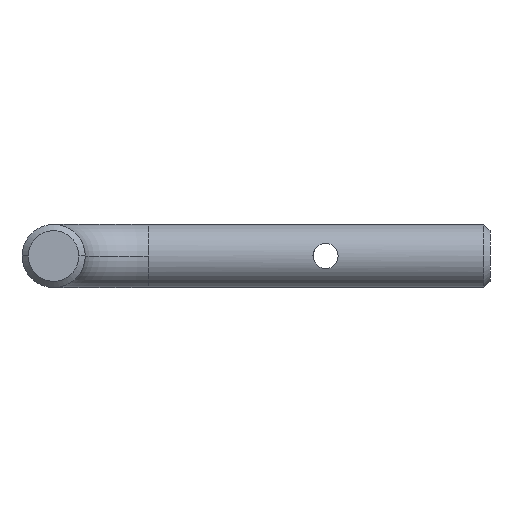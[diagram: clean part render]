
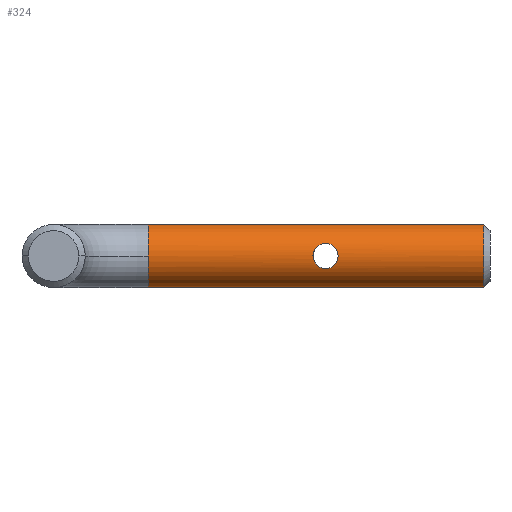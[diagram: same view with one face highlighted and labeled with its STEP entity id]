
A CAD part, left-side view. The second image highlights one B-rep face of the part: STEP entity #324.
In plain terms, the highlighted cylindrical face has radius 2.5 mm (diameter 5 mm), a partial arc.
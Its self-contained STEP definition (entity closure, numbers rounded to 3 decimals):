
#16 = FACE_BOUND ( 'NONE', #434, .T. ) ;
#24 = FACE_OUTER_BOUND ( 'NONE', #488, .T. ) ;
#25 = LINE ( 'NONE', #340, #61 ) ;
#26 = CIRCLE ( 'NONE', #113, 2.5 ) ;
#29 = CIRCLE ( 'NONE', #139, 2.5 ) ;
#30 = CIRCLE ( 'NONE', #110, 2.5 ) ;
#36 = VECTOR ( 'NONE', #343, 1000. ) ;
#40 = LINE ( 'NONE', #362, #36 ) ;
#52 = VERTEX_POINT ( 'NONE', #338 ) ;
#59 = CYLINDRICAL_SURFACE ( 'NONE', #117, 2.5 ) ;
#61 = VECTOR ( 'NONE', #387, 1000. ) ;
#74 = VERTEX_POINT ( 'NONE', #384 ) ;
#78 = EDGE_CURVE ( 'NONE', #52, #418, #25, .T. ) ;
#79 = EDGE_CURVE ( 'NONE', #52, #74, #30, .T. ) ;
#81 = EDGE_CURVE ( 'NONE', #74, #411, #40, .T. ) ;
#86 = EDGE_CURVE ( 'NONE', #404, #484, #310, .T. ) ;
#110 = AXIS2_PLACEMENT_3D ( 'NONE', #390, #359, #345 ) ;
#113 = AXIS2_PLACEMENT_3D ( 'NONE', #177, #189, #183 ) ;
#117 = AXIS2_PLACEMENT_3D ( 'NONE', #168, #160, #169 ) ;
#123 = EDGE_CURVE ( 'NONE', #399, #418, #26, .T. ) ;
#125 = EDGE_CURVE ( 'NONE', #484, #404, #308, .T. ) ;
#136 = EDGE_CURVE ( 'NONE', #411, #399, #29, .T. ) ;
#139 = AXIS2_PLACEMENT_3D ( 'NONE', #244, #231, #251 ) ;
#149 = CARTESIAN_POINT ( 'NONE',  ( -2.5, 0., 0. ) ) ;
#160 = DIRECTION ( 'NONE',  ( 0., 1., 0. ) ) ;
#168 = CARTESIAN_POINT ( 'NONE',  ( 0., -27., 0. ) ) ;
#169 = DIRECTION ( 'NONE',  ( 0., 0., 1. ) ) ;
#173 = CARTESIAN_POINT ( 'NONE',  ( 0., 0., 2.5 ) ) ;
#175 = CARTESIAN_POINT ( 'NONE',  ( -2.291, -13.868, 1. ) ) ;
#177 = CARTESIAN_POINT ( 'NONE',  ( 0., 0., 0. ) ) ;
#179 = CARTESIAN_POINT ( 'NONE',  ( -2.5, -13., -0.133 ) ) ;
#180 = CARTESIAN_POINT ( 'NONE',  ( -2.489, -13.026, 0.263 ) ) ;
#183 = DIRECTION ( 'NONE',  ( 0., 0., -1. ) ) ;
#185 = CARTESIAN_POINT ( 'NONE',  ( -2.371, -13.385, 0.799 ) ) ;
#187 = CARTESIAN_POINT ( 'NONE',  ( -2.425, -13.202, 0.616 ) ) ;
#188 = CARTESIAN_POINT ( 'NONE',  ( -2.371, -13.384, -0.798 ) ) ;
#189 = DIRECTION ( 'NONE',  ( 0., -1., 0. ) ) ;
#191 = CARTESIAN_POINT ( 'NONE',  ( -2.343, -13.494, -0.872 ) ) ;
#193 = CARTESIAN_POINT ( 'NONE',  ( -2.489, -13.027, -0.265 ) ) ;
#194 = CARTESIAN_POINT ( 'NONE',  ( -2.303, -13.736, 0.973 ) ) ;
#202 = CARTESIAN_POINT ( 'NONE',  ( -2.425, -13.202, -0.616 ) ) ;
#203 = CARTESIAN_POINT ( 'NONE',  ( -2.291, -14., 1. ) ) ;
#204 = CARTESIAN_POINT ( 'NONE',  ( -2.5, -13., 0.132 ) ) ;
#206 = CARTESIAN_POINT ( 'NONE',  ( -2.451, -13.127, -0.505 ) ) ;
#208 = CARTESIAN_POINT ( 'NONE',  ( -2.343, -13.495, 0.873 ) ) ;
#212 = CARTESIAN_POINT ( 'NONE',  ( -2.291, -13.866, -1. ) ) ;
#213 = CARTESIAN_POINT ( 'NONE',  ( -2.291, -14., -1. ) ) ;
#218 = CARTESIAN_POINT ( 'NONE',  ( -2.303, -13.735, -0.973 ) ) ;
#223 = CARTESIAN_POINT ( 'NONE',  ( -2.451, -13.128, 0.507 ) ) ;
#231 = DIRECTION ( 'NONE',  ( 0., -1., 0. ) ) ;
#244 = CARTESIAN_POINT ( 'NONE',  ( 0., 0., 0. ) ) ;
#251 = DIRECTION ( 'NONE',  ( 0., 0., -1. ) ) ;
#279 = CARTESIAN_POINT ( 'NONE',  ( -2.291, -14., 1. ) ) ;
#280 = CARTESIAN_POINT ( 'NONE',  ( 0., 0., -2.5 ) ) ;
#287 = CARTESIAN_POINT ( 'NONE',  ( -2.291, -14., -1. ) ) ;
#308 = B_SPLINE_CURVE_WITH_KNOTS ( 'NONE', 3,
 ( #213, #212, #218, #191, #188, #202, #206, #193, #179, #204, #180, #223, #187, #185, #208, #194, #175, #203 ),
 .UNSPECIFIED., .F., .F.,
 ( 4, 2, 2, 2, 2, 2, 2, 2, 4 ),
 ( 0., 0., 0.001, 0.001, 0.002, 0.002, 0.002, 0.003, 0.003 ),
 .UNSPECIFIED. ) ;
#310 = B_SPLINE_CURVE_WITH_KNOTS ( 'NONE', 3,
 ( #388, #372, #386, #351, #335, #370, #373, #341, #348, #358, #354, #342, #329, #346, #339, #371, #363, #366 ),
 .UNSPECIFIED., .F., .F.,
 ( 4, 2, 2, 2, 2, 2, 2, 2, 4 ),
 ( 0.003, 0.004, 0.004, 0.004, 0.005, 0.005, 0.006, 0.006, 0.006 ),
 .UNSPECIFIED. ) ;
#324 = ADVANCED_FACE ( 'NONE', ( #24, #16 ), #59, .T. ) ;
#329 = CARTESIAN_POINT ( 'NONE',  ( -2.425, -14.799, -0.615 ) ) ;
#335 = CARTESIAN_POINT ( 'NONE',  ( -2.371, -14.615, 0.799 ) ) ;
#338 = CARTESIAN_POINT ( 'NONE',  ( 0., -26.5, -2.5 ) ) ;
#339 = CARTESIAN_POINT ( 'NONE',  ( -2.344, -14.507, -0.872 ) ) ;
#340 = CARTESIAN_POINT ( 'NONE',  ( 0., -27., -2.5 ) ) ;
#341 = CARTESIAN_POINT ( 'NONE',  ( -2.489, -14.973, 0.264 ) ) ;
#342 = CARTESIAN_POINT ( 'NONE',  ( -2.451, -14.873, -0.505 ) ) ;
#343 = DIRECTION ( 'NONE',  ( 0., 1., 0. ) ) ;
#345 = DIRECTION ( 'NONE',  ( 0., 0., -1. ) ) ;
#346 = CARTESIAN_POINT ( 'NONE',  ( -2.371, -14.616, -0.799 ) ) ;
#348 = CARTESIAN_POINT ( 'NONE',  ( -2.5, -15., 0.132 ) ) ;
#351 = CARTESIAN_POINT ( 'NONE',  ( -2.343, -14.506, 0.873 ) ) ;
#354 = CARTESIAN_POINT ( 'NONE',  ( -2.489, -14.973, -0.264 ) ) ;
#358 = CARTESIAN_POINT ( 'NONE',  ( -2.5, -15., -0.131 ) ) ;
#359 = DIRECTION ( 'NONE',  ( 0., 1., 0. ) ) ;
#362 = CARTESIAN_POINT ( 'NONE',  ( 0., -27., 2.5 ) ) ;
#363 = CARTESIAN_POINT ( 'NONE',  ( -2.291, -14.134, -1. ) ) ;
#366 = CARTESIAN_POINT ( 'NONE',  ( -2.291, -14., -1. ) ) ;
#370 = CARTESIAN_POINT ( 'NONE',  ( -2.425, -14.799, 0.615 ) ) ;
#371 = CARTESIAN_POINT ( 'NONE',  ( -2.303, -14.264, -0.973 ) ) ;
#372 = CARTESIAN_POINT ( 'NONE',  ( -2.291, -14.131, 1. ) ) ;
#373 = CARTESIAN_POINT ( 'NONE',  ( -2.451, -14.872, 0.506 ) ) ;
#384 = CARTESIAN_POINT ( 'NONE',  ( 0., -26.5, 2.5 ) ) ;
#386 = CARTESIAN_POINT ( 'NONE',  ( -2.303, -14.264, 0.973 ) ) ;
#387 = DIRECTION ( 'NONE',  ( 0., 1., 0. ) ) ;
#388 = CARTESIAN_POINT ( 'NONE',  ( -2.291, -14., 1. ) ) ;
#390 = CARTESIAN_POINT ( 'NONE',  ( 0., -26.5, 0. ) ) ;
#399 = VERTEX_POINT ( 'NONE', #149 ) ;
#404 = VERTEX_POINT ( 'NONE', #279 ) ;
#406 = ORIENTED_EDGE ( 'NONE', *, *, #81, .T. ) ;
#411 = VERTEX_POINT ( 'NONE', #173 ) ;
#418 = VERTEX_POINT ( 'NONE', #280 ) ;
#434 = EDGE_LOOP ( 'NONE', ( #462, #482 ) ) ;
#436 = ORIENTED_EDGE ( 'NONE', *, *, #78, .F. ) ;
#440 = ORIENTED_EDGE ( 'NONE', *, *, #123, .T. ) ;
#457 = ORIENTED_EDGE ( 'NONE', *, *, #136, .T. ) ;
#462 = ORIENTED_EDGE ( 'NONE', *, *, #125, .T. ) ;
#479 = ORIENTED_EDGE ( 'NONE', *, *, #79, .T. ) ;
#482 = ORIENTED_EDGE ( 'NONE', *, *, #86, .T. ) ;
#484 = VERTEX_POINT ( 'NONE', #287 ) ;
#488 = EDGE_LOOP ( 'NONE', ( #436, #479, #406, #457, #440 ) ) ;
